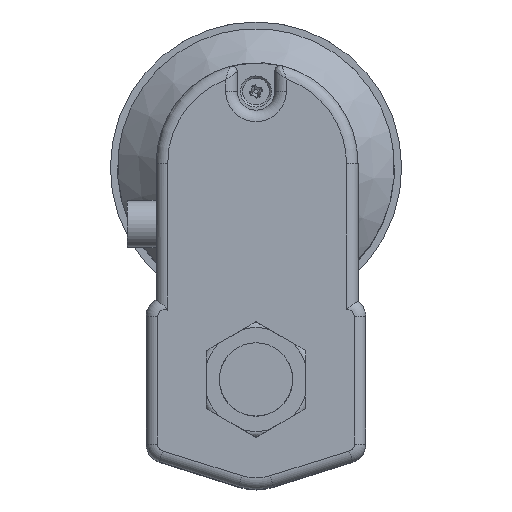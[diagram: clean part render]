
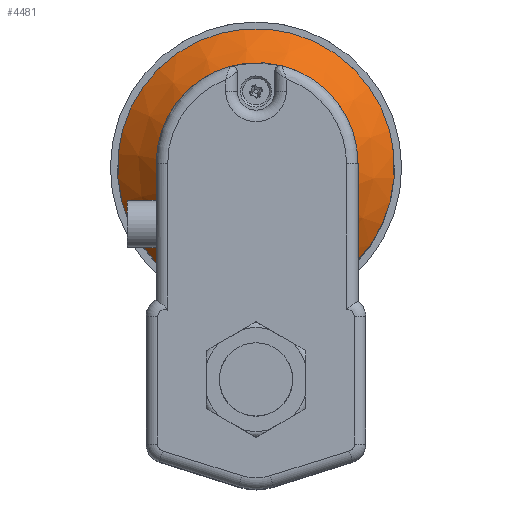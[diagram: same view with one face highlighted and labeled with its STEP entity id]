
A CAD part, top view. The second image highlights one B-rep face of the part: STEP entity #4481.
In plain terms, the highlighted conical face has half-angle 45 degrees and reference radius 48 mm.
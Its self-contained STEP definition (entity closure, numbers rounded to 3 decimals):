
#188 = CARTESIAN_POINT ( 'NONE',  ( -27.908, 34.847, 53.5 ) ) ;
#264 = CARTESIAN_POINT ( 'NONE',  ( 27.908, 34.847, 53.5 ) ) ;
#626 = DIRECTION ( 'NONE',  ( 0., 1., 0. ) ) ;
#636 = CARTESIAN_POINT ( 'NONE',  ( 0., 73.9, 53.5 ) ) ;
#637 = DIRECTION ( 'NONE',  ( 0., 0., -1. ) ) ;
#958 = VERTEX_POINT ( 'NONE', #959 ) ;
#959 = CARTESIAN_POINT ( 'NONE',  ( 0., 39.9, 67.5 ) ) ;
#1503 = EDGE_CURVE ( 'NONE', #3791, #3715, #2961, .T. ) ;
#1504 = EDGE_CURVE ( 'NONE', #3715, #3791, #3669, .T. ) ;
#1506 = EDGE_CURVE ( 'NONE', #958, #958, #2962, .T. ) ;
#1851 = EDGE_LOOP ( 'NONE', ( #2000 ) ) ;
#1884 = EDGE_LOOP ( 'NONE', ( #2001, #2002 ) ) ;
#2000 = ORIENTED_EDGE ( 'NONE', *, *, #1506, .F. ) ;
#2001 = ORIENTED_EDGE ( 'NONE', *, *, #1503, .T. ) ;
#2002 = ORIENTED_EDGE ( 'NONE', *, *, #1504, .T. ) ;
#2740 = AXIS2_PLACEMENT_3D ( 'NONE', #636, #637, #626 ) ;
#2961 = CIRCLE ( 'NONE', #4167, 48. ) ;
#2962 = CIRCLE ( 'NONE', #4172, 34. ) ;
#3512 = FACE_OUTER_BOUND ( 'NONE', #1884, .T. ) ;
#3518 = FACE_BOUND ( 'NONE', #1851, .T. ) ;
#3519 = CONICAL_SURFACE ( 'NONE', #2740, 48., 0.785 ) ;
#3669 = B_SPLINE_CURVE_WITH_KNOTS ( 'NONE', 3,
 ( #5216, #5221, #5222, #5223, #5224, #5225, #5226, #5227, #5228, #5229, #5230, #5231, #5232, #5233, #5234, #5235, #5236, #5237, #5238, #5239, #5240, #5241, #5242, #5243, #5244, #5245 ),
 .UNSPECIFIED., .F., .F.,
 ( 4, 2, 2, 2, 2, 2, 2, 2, 2, 2, 2, 2, 4 ),
 ( 0., 0.004, 0.007, 0.015, 0.018, 0.022, 0.026, 0.029, 0.037, 0.04, 0.044, 0.051, 0.059 ),
 .UNSPECIFIED. ) ;
#3715 = VERTEX_POINT ( 'NONE', #188 ) ;
#3791 = VERTEX_POINT ( 'NONE', #264 ) ;
#4167 = AXIS2_PLACEMENT_3D ( 'NONE', #5207, #5217, #5218 ) ;
#4172 = AXIS2_PLACEMENT_3D ( 'NONE', #5220, #5249, #5250 ) ;
#4481 = ADVANCED_FACE ( 'NONE', ( #3518, #3512 ), #3519, .T. ) ;
#5207 = CARTESIAN_POINT ( 'NONE',  ( 0., 73.9, 53.5 ) ) ;
#5216 = CARTESIAN_POINT ( 'NONE',  ( -27.908, 34.847, 53.5 ) ) ;
#5217 = DIRECTION ( 'NONE',  ( 0., 0., 1. ) ) ;
#5218 = DIRECTION ( 'NONE',  ( 0., -1., 0. ) ) ;
#5220 = CARTESIAN_POINT ( 'NONE',  ( 0., 73.9, 67.5 ) ) ;
#5221 = CARTESIAN_POINT ( 'NONE',  ( -26.826, 34.768, 54.065 ) ) ;
#5222 = CARTESIAN_POINT ( 'NONE',  ( -25.733, 34.688, 54.609 ) ) ;
#5223 = CARTESIAN_POINT ( 'NONE',  ( -23.531, 34.53, 55.644 ) ) ;
#5224 = CARTESIAN_POINT ( 'NONE',  ( -22.421, 34.452, 56.137 ) ) ;
#5225 = CARTESIAN_POINT ( 'NONE',  ( -19.06, 34.223, 57.53 ) ) ;
#5226 = CARTESIAN_POINT ( 'NONE',  ( -16.779, 34.077, 58.344 ) ) ;
#5227 = CARTESIAN_POINT ( 'NONE',  ( -13.28, 33.887, 59.356 ) ) ;
#5228 = CARTESIAN_POINT ( 'NONE',  ( -12.101, 33.829, 59.657 ) ) ;
#5229 = CARTESIAN_POINT ( 'NONE',  ( -9.715, 33.725, 60.183 ) ) ;
#5230 = CARTESIAN_POINT ( 'NONE',  ( -8.505, 33.679, 60.407 ) ) ;
#5231 = CARTESIAN_POINT ( 'NONE',  ( -6.081, 33.605, 60.767 ) ) ;
#5232 = CARTESIAN_POINT ( 'NONE',  ( -4.863, 33.577, 60.903 ) ) ;
#5233 = CARTESIAN_POINT ( 'NONE',  ( -2.415, 33.538, 61.085 ) ) ;
#5234 = CARTESIAN_POINT ( 'NONE',  ( -1.188, 33.529, 61.13 ) ) ;
#5235 = CARTESIAN_POINT ( 'NONE',  ( 2.477, 33.529, 61.127 ) ) ;
#5236 = CARTESIAN_POINT ( 'NONE',  ( 4.908, 33.569, 60.942 ) ) ;
#5237 = CARTESIAN_POINT ( 'NONE',  ( 8.537, 33.68, 60.402 ) ) ;
#5238 = CARTESIAN_POINT ( 'NONE',  ( 9.746, 33.726, 60.177 ) ) ;
#5239 = CARTESIAN_POINT ( 'NONE',  ( 12.13, 33.83, 59.65 ) ) ;
#5240 = CARTESIAN_POINT ( 'NONE',  ( 13.307, 33.888, 59.348 ) ) ;
#5241 = CARTESIAN_POINT ( 'NONE',  ( 16.801, 34.078, 58.337 ) ) ;
#5242 = CARTESIAN_POINT ( 'NONE',  ( 19.078, 34.224, 57.523 ) ) ;
#5243 = CARTESIAN_POINT ( 'NONE',  ( 23.55, 34.529, 55.668 ) ) ;
#5244 = CARTESIAN_POINT ( 'NONE',  ( 25.745, 34.688, 54.629 ) ) ;
#5245 = CARTESIAN_POINT ( 'NONE',  ( 27.908, 34.847, 53.5 ) ) ;
#5249 = DIRECTION ( 'NONE',  ( 0., 0., 1. ) ) ;
#5250 = DIRECTION ( 'NONE',  ( 0., -1., 0. ) ) ;
